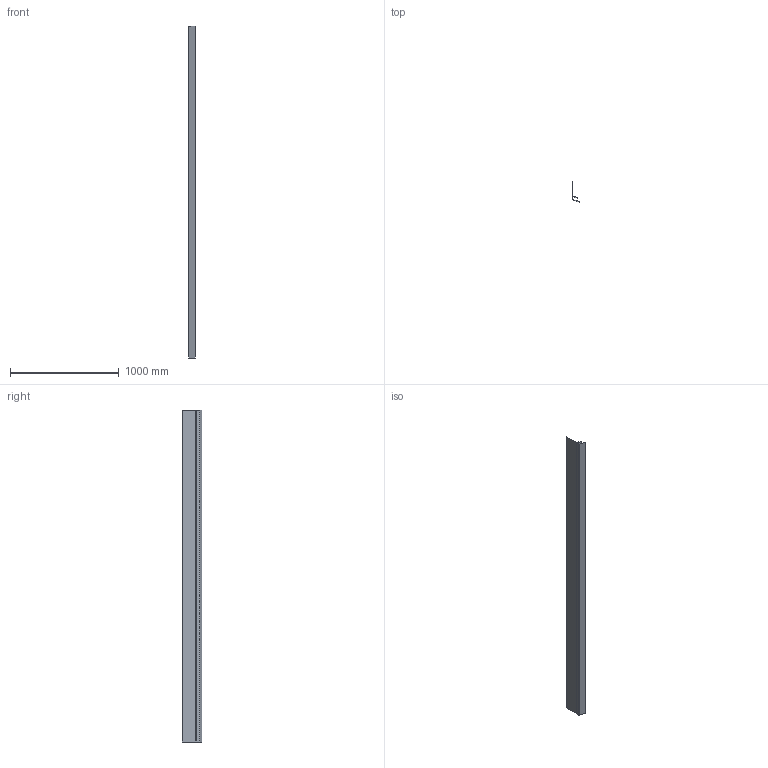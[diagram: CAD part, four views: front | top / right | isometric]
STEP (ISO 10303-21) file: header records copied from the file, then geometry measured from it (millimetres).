
FILE_DESCRIPTION (( 'STEP AP203' ), '1' );
FILE_NAME ('M41A.STEP', '2018-06-15T18:18:45', ( 'Michael Moliner' ), ( '' ), 'SwSTEP 2.0', 'SolidWorks 2018', '' );
FILE_SCHEMA (( 'CONFIG_CONTROL_DESIGN' ));
Length unit declared in the file: inch
Products named in the file (2): M41A
Bounding box: 60.68 x 183.02 x 3048 mm (x, y, z)
Volume: 501090.4 mm3; surface area: 1976222.6 mm2
Topology: 1 solids, 1 shells, 22 faces, 60 edges, 40 vertices
Faces by surface type: plane 14, cylinder 8
Entity records: 857 total; most frequent: DIRECTION 124, CARTESIAN_POINT 124, ORIENTED_EDGE 120, EDGE_CURVE 60, LINE 44, VECTOR 44, VERTEX_POINT 40, AXIS2_PLACEMENT_3D 40
